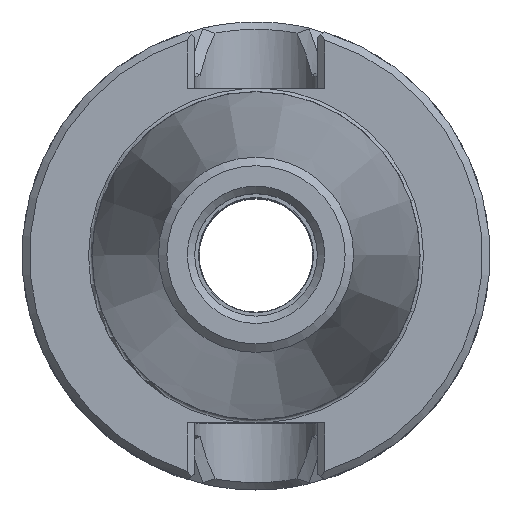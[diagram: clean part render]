
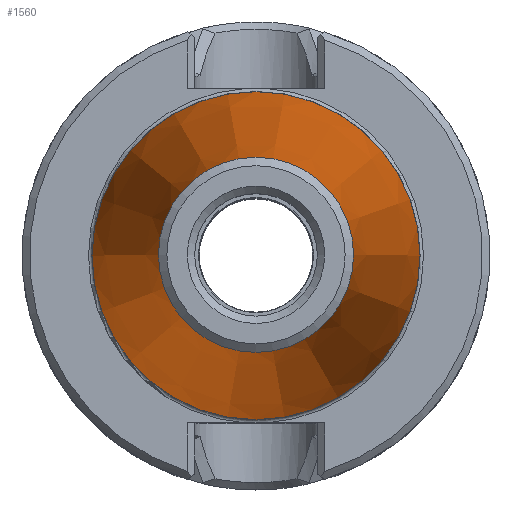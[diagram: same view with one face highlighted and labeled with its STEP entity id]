
A CAD part, top view. The second image highlights one B-rep face of the part: STEP entity #1560.
In plain terms, the highlighted conical face has half-angle 7.862 degrees and reference radius 17.55 mm.
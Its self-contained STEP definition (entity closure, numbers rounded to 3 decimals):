
#213=FACE_OUTER_BOUND('',#299,.T.);
#299=EDGE_LOOP('',(#1055,#1056,#1057,#1058,#1059,#1060));
#391=LINE('',#2232,#478);
#478=VECTOR('',#1871,17.55);
#565=CIRCLE('',#1717,13.137);
#566=CIRCLE('',#1718,13.137);
#568=CIRCLE('',#1722,22.1);
#569=CIRCLE('',#1723,22.1);
#629=VERTEX_POINT('',#2222);
#630=VERTEX_POINT('',#2224);
#632=VERTEX_POINT('',#2231);
#633=VERTEX_POINT('',#2233);
#801=EDGE_CURVE('',#629,#630,#565,.T.);
#802=EDGE_CURVE('',#630,#629,#566,.T.);
#804=EDGE_CURVE('',#630,#632,#391,.T.);
#805=EDGE_CURVE('',#632,#633,#568,.T.);
#806=EDGE_CURVE('',#633,#632,#569,.T.);
#1055=ORIENTED_EDGE('',*,*,#801,.F.);
#1056=ORIENTED_EDGE('',*,*,#802,.F.);
#1057=ORIENTED_EDGE('',*,*,#804,.T.);
#1058=ORIENTED_EDGE('',*,*,#805,.T.);
#1059=ORIENTED_EDGE('',*,*,#806,.T.);
#1060=ORIENTED_EDGE('',*,*,#804,.F.);
#1547=CONICAL_SURFACE('',#1721,17.55,0.137);
#1560=ADVANCED_FACE('',(#213),#1547,.T.);
#1717=AXIS2_PLACEMENT_3D('',#2225,#1861,#1862);
#1718=AXIS2_PLACEMENT_3D('',#2226,#1863,#1864);
#1721=AXIS2_PLACEMENT_3D('',#2230,#1869,#1870);
#1722=AXIS2_PLACEMENT_3D('',#2234,#1872,#1873);
#1723=AXIS2_PLACEMENT_3D('',#2235,#1874,#1875);
#1861=DIRECTION('center_axis',(0.,0.,
1.));
#1862=DIRECTION('ref_axis',(-1.,0.,0.));
#1863=DIRECTION('center_axis',(0.,0.,
1.));
#1864=DIRECTION('ref_axis',(-1.,0.,0.));
#1869=DIRECTION('center_axis',(0.,0.,-1.));
#1870=DIRECTION('ref_axis',(1.,0.,0.));
#1871=DIRECTION('',(-0.137,0.,-0.991));
#1872=DIRECTION('center_axis',(0.,0.,1.));
#1873=DIRECTION('ref_axis',(1.,0.,0.));
#1874=DIRECTION('center_axis',(0.,0.,1.));
#1875=DIRECTION('ref_axis',(1.,0.,0.));
#2222=CARTESIAN_POINT('',(13.137,0.,-0.991));
#2224=CARTESIAN_POINT('',(-13.137,0.,-0.991));
#2225=CARTESIAN_POINT('Origin',(0.,0.,-0.991));
#2226=CARTESIAN_POINT('Origin',(0.,0.,-0.991));
#2230=CARTESIAN_POINT('Origin',(0.,0.,-32.95));
#2231=CARTESIAN_POINT('',(-22.1,0.,-65.9));
#2232=CARTESIAN_POINT('',(-17.55,0.,-32.95));
#2233=CARTESIAN_POINT('',(22.1,0.,-65.9));
#2234=CARTESIAN_POINT('Origin',(0.,0.,-65.9));
#2235=CARTESIAN_POINT('Origin',(0.,0.,-65.9));
